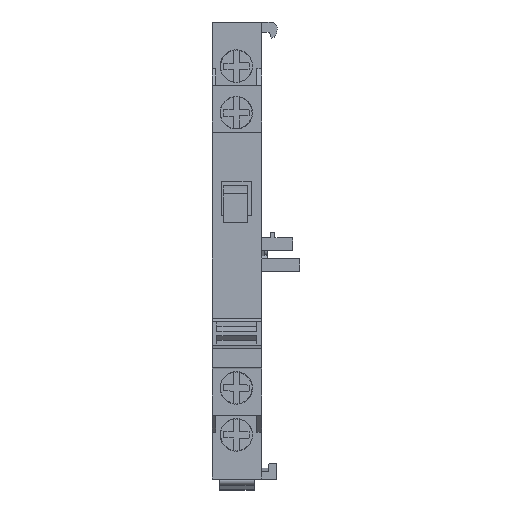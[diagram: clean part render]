
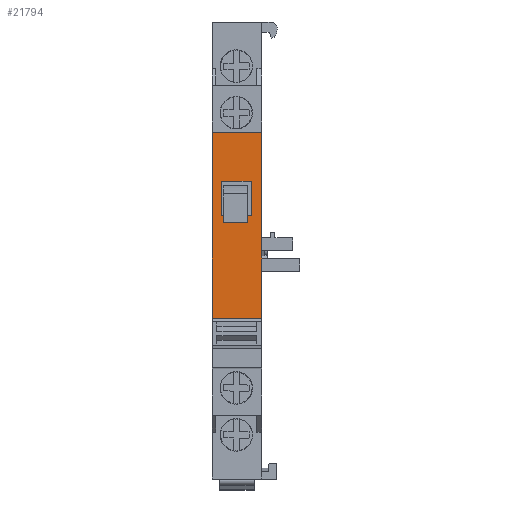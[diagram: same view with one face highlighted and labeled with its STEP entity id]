
A CAD part, top view. The second image highlights one B-rep face of the part: STEP entity #21794.
In plain terms, the highlighted planar face has unit normal (0, 0, 1).
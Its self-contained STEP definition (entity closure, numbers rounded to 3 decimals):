
#696 = PLANE('',#697);
#697 = AXIS2_PLACEMENT_3D('',#698,#699,#700);
#698 = CARTESIAN_POINT('',(9.408,0.,
    0.009));
#699 = DIRECTION('',(1.,0.,0.));
#700 = DIRECTION('',(0.,1.,0.));
#750 = PLANE('',#751);
#751 = AXIS2_PLACEMENT_3D('',#752,#753,#754);
#752 = CARTESIAN_POINT('',(0.009,89.05,
    0.009));
#753 = DIRECTION('',(-1.,0.,0.));
#754 = DIRECTION('',(0.,-1.,0.));
#3478 = VERTEX_POINT('',#3479);
#3479 = CARTESIAN_POINT('',(9.408,32.601,65.509
    ));
#3493 = PLANE('',#3494);
#3494 = AXIS2_PLACEMENT_3D('',#3495,#3496,#3497);
#3495 = CARTESIAN_POINT('',(0.009,32.601,
    65.509));
#3496 = DIRECTION('',(0.,-0.242,-0.97));
#3497 = DIRECTION('',(0.,-0.97,0.242));
#3505 = EDGE_CURVE('',#3506,#3478,#3508,.T.);
#3506 = VERTEX_POINT('',#3507);
#3507 = CARTESIAN_POINT('',(9.408,67.956,65.509
    ));
#3508 = SURFACE_CURVE('',#3509,(#3513,#3520),.PCURVE_S1.);
#3509 = LINE('',#3510,#3511);
#3510 = CARTESIAN_POINT('',(9.408,67.956,65.509
    ));
#3511 = VECTOR('',#3512,1.);
#3512 = DIRECTION('',(0.,-1.,0.));
#3513 = PCURVE('',#696,#3514);
#3514 = DEFINITIONAL_REPRESENTATION('',(#3515),#3519);
#3515 = LINE('',#3516,#3517);
#3516 = CARTESIAN_POINT('',(67.956,65.5));
#3517 = VECTOR('',#3518,1.);
#3518 = DIRECTION('',(-1.,0.));
#3519 = ( GEOMETRIC_REPRESENTATION_CONTEXT(2) 
PARAMETRIC_REPRESENTATION_CONTEXT() REPRESENTATION_CONTEXT('2D SPACE',''
  ) );
#3520 = PCURVE('',#3521,#3526);
#3521 = PLANE('',#3522);
#3522 = AXIS2_PLACEMENT_3D('',#3523,#3524,#3525);
#3523 = CARTESIAN_POINT('',(0.009,67.956,
    65.509));
#3524 = DIRECTION('',(0.,0.,-1.));
#3525 = DIRECTION('',(0.,-1.,0.));
#3526 = DEFINITIONAL_REPRESENTATION('',(#3527),#3531);
#3527 = LINE('',#3528,#3529);
#3528 = CARTESIAN_POINT('',(0.,-9.399));
#3529 = VECTOR('',#3530,1.);
#3530 = DIRECTION('',(1.,0.));
#3531 = ( GEOMETRIC_REPRESENTATION_CONTEXT(2) 
PARAMETRIC_REPRESENTATION_CONTEXT() REPRESENTATION_CONTEXT('2D SPACE',''
  ) );
#3549 = PLANE('',#3550);
#3550 = AXIS2_PLACEMENT_3D('',#3551,#3552,#3553);
#3551 = CARTESIAN_POINT('',(0.009,68.049,
    49.528));
#3552 = DIRECTION('',(0.,-1.,-0.006));
#3553 = DIRECTION('',(0.,-0.006,1.));
#11305 = VERTEX_POINT('',#11306);
#11306 = CARTESIAN_POINT('',(0.009,67.956,
    65.509));
#11327 = EDGE_CURVE('',#11305,#11328,#11330,.T.);
#11328 = VERTEX_POINT('',#11329);
#11329 = CARTESIAN_POINT('',(0.009,32.601,
    65.509));
#11330 = SURFACE_CURVE('',#11331,(#11335,#11342),.PCURVE_S1.);
#11331 = LINE('',#11332,#11333);
#11332 = CARTESIAN_POINT('',(0.009,67.956,
    65.509));
#11333 = VECTOR('',#11334,1.);
#11334 = DIRECTION('',(0.,-1.,0.));
#11335 = PCURVE('',#750,#11336);
#11336 = DEFINITIONAL_REPRESENTATION('',(#11337),#11341);
#11337 = LINE('',#11338,#11339);
#11338 = CARTESIAN_POINT('',(21.094,65.5));
#11339 = VECTOR('',#11340,1.);
#11340 = DIRECTION('',(1.,0.));
#11341 = ( GEOMETRIC_REPRESENTATION_CONTEXT(2) 
PARAMETRIC_REPRESENTATION_CONTEXT() REPRESENTATION_CONTEXT('2D SPACE',''
  ) );
#11342 = PCURVE('',#3521,#11343);
#11343 = DEFINITIONAL_REPRESENTATION('',(#11344),#11348);
#11344 = LINE('',#11345,#11346);
#11345 = CARTESIAN_POINT('',(0.,-0.));
#11346 = VECTOR('',#11347,1.);
#11347 = DIRECTION('',(1.,0.));
#11348 = ( GEOMETRIC_REPRESENTATION_CONTEXT(2) 
PARAMETRIC_REPRESENTATION_CONTEXT() REPRESENTATION_CONTEXT('2D SPACE',''
  ) );
#21772 = EDGE_CURVE('',#11305,#3506,#21773,.T.);
#21773 = SURFACE_CURVE('',#21774,(#21778,#21785),.PCURVE_S1.);
#21774 = LINE('',#21775,#21776);
#21775 = CARTESIAN_POINT('',(0.009,67.956,
    65.509));
#21776 = VECTOR('',#21777,1.);
#21777 = DIRECTION('',(1.,0.,0.));
#21778 = PCURVE('',#3549,#21779);
#21779 = DEFINITIONAL_REPRESENTATION('',(#21780),#21784);
#21780 = LINE('',#21781,#21782);
#21781 = CARTESIAN_POINT('',(15.981,0.));
#21782 = VECTOR('',#21783,1.);
#21783 = DIRECTION('',(0.,-1.));
#21784 = ( GEOMETRIC_REPRESENTATION_CONTEXT(2) 
PARAMETRIC_REPRESENTATION_CONTEXT() REPRESENTATION_CONTEXT('2D SPACE',''
  ) );
#21785 = PCURVE('',#3521,#21786);
#21786 = DEFINITIONAL_REPRESENTATION('',(#21787),#21791);
#21787 = LINE('',#21788,#21789);
#21788 = CARTESIAN_POINT('',(0.,-0.));
#21789 = VECTOR('',#21790,1.);
#21790 = DIRECTION('',(0.,-1.));
#21791 = ( GEOMETRIC_REPRESENTATION_CONTEXT(2) 
PARAMETRIC_REPRESENTATION_CONTEXT() REPRESENTATION_CONTEXT('2D SPACE',''
  ) );
#21794 = ADVANCED_FACE('',(#21795,#21821),#3521,.F.);
#21795 = FACE_BOUND('',#21796,.F.);
#21796 = EDGE_LOOP('',(#21797,#21798,#21819,#21820));
#21797 = ORIENTED_EDGE('',*,*,#3505,.T.);
#21798 = ORIENTED_EDGE('',*,*,#21799,.F.);
#21799 = EDGE_CURVE('',#11328,#3478,#21800,.T.);
#21800 = SURFACE_CURVE('',#21801,(#21805,#21812),.PCURVE_S1.);
#21801 = LINE('',#21802,#21803);
#21802 = CARTESIAN_POINT('',(0.009,32.601,
    65.509));
#21803 = VECTOR('',#21804,1.);
#21804 = DIRECTION('',(1.,0.,0.));
#21805 = PCURVE('',#3521,#21806);
#21806 = DEFINITIONAL_REPRESENTATION('',(#21807),#21811);
#21807 = LINE('',#21808,#21809);
#21808 = CARTESIAN_POINT('',(35.354,0.));
#21809 = VECTOR('',#21810,1.);
#21810 = DIRECTION('',(0.,-1.));
#21811 = ( GEOMETRIC_REPRESENTATION_CONTEXT(2) 
PARAMETRIC_REPRESENTATION_CONTEXT() REPRESENTATION_CONTEXT('2D SPACE',''
  ) );
#21812 = PCURVE('',#3493,#21813);
#21813 = DEFINITIONAL_REPRESENTATION('',(#21814),#21818);
#21814 = LINE('',#21815,#21816);
#21815 = CARTESIAN_POINT('',(0.,0.));
#21816 = VECTOR('',#21817,1.);
#21817 = DIRECTION('',(0.,-1.));
#21818 = ( GEOMETRIC_REPRESENTATION_CONTEXT(2) 
PARAMETRIC_REPRESENTATION_CONTEXT() REPRESENTATION_CONTEXT('2D SPACE',''
  ) );
#21819 = ORIENTED_EDGE('',*,*,#11327,.F.);
#21820 = ORIENTED_EDGE('',*,*,#21772,.T.);
#21821 = FACE_BOUND('',#21822,.F.);
#21822 = EDGE_LOOP('',(#21823,#21853,#21881,#21909));
#21823 = ORIENTED_EDGE('',*,*,#21824,.F.);
#21824 = EDGE_CURVE('',#21825,#21827,#21829,.T.);
#21825 = VERTEX_POINT('',#21826);
#21826 = CARTESIAN_POINT('',(1.755,52.116,
    65.509));
#21827 = VERTEX_POINT('',#21828);
#21828 = CARTESIAN_POINT('',(1.755,58.724,
    65.509));
#21829 = SURFACE_CURVE('',#21830,(#21834,#21841),.PCURVE_S1.);
#21830 = LINE('',#21831,#21832);
#21831 = CARTESIAN_POINT('',(1.755,52.116,
    65.509));
#21832 = VECTOR('',#21833,1.);
#21833 = DIRECTION('',(0.,1.,0.));
#21834 = PCURVE('',#3521,#21835);
#21835 = DEFINITIONAL_REPRESENTATION('',(#21836),#21840);
#21836 = LINE('',#21837,#21838);
#21837 = CARTESIAN_POINT('',(15.84,-1.746));
#21838 = VECTOR('',#21839,1.);
#21839 = DIRECTION('',(-1.,-0.));
#21840 = ( GEOMETRIC_REPRESENTATION_CONTEXT(2) 
PARAMETRIC_REPRESENTATION_CONTEXT() REPRESENTATION_CONTEXT('2D SPACE',''
  ) );
#21841 = PCURVE('',#21842,#21847);
#21842 = PLANE('',#21843);
#21843 = AXIS2_PLACEMENT_3D('',#21844,#21845,#21846);
#21844 = CARTESIAN_POINT('',(1.755,58.724,
    65.509));
#21845 = DIRECTION('',(-1.,0.,0.));
#21846 = DIRECTION('',(0.,-1.,0.));
#21847 = DEFINITIONAL_REPRESENTATION('',(#21848),#21852);
#21848 = LINE('',#21849,#21850);
#21849 = CARTESIAN_POINT('',(6.608,0.));
#21850 = VECTOR('',#21851,1.);
#21851 = DIRECTION('',(-1.,0.));
#21852 = ( GEOMETRIC_REPRESENTATION_CONTEXT(2) 
PARAMETRIC_REPRESENTATION_CONTEXT() REPRESENTATION_CONTEXT('2D SPACE',''
  ) );
#21853 = ORIENTED_EDGE('',*,*,#21854,.T.);
#21854 = EDGE_CURVE('',#21825,#21855,#21857,.T.);
#21855 = VERTEX_POINT('',#21856);
#21856 = CARTESIAN_POINT('',(7.463,52.116,
    65.509));
#21857 = SURFACE_CURVE('',#21858,(#21862,#21869),.PCURVE_S1.);
#21858 = LINE('',#21859,#21860);
#21859 = CARTESIAN_POINT('',(1.755,52.116,
    65.509));
#21860 = VECTOR('',#21861,1.);
#21861 = DIRECTION('',(1.,0.,0.));
#21862 = PCURVE('',#3521,#21863);
#21863 = DEFINITIONAL_REPRESENTATION('',(#21864),#21868);
#21864 = LINE('',#21865,#21866);
#21865 = CARTESIAN_POINT('',(15.84,-1.746));
#21866 = VECTOR('',#21867,1.);
#21867 = DIRECTION('',(0.,-1.));
#21868 = ( GEOMETRIC_REPRESENTATION_CONTEXT(2) 
PARAMETRIC_REPRESENTATION_CONTEXT() REPRESENTATION_CONTEXT('2D SPACE',''
  ) );
#21869 = PCURVE('',#21870,#21875);
#21870 = PLANE('',#21871);
#21871 = AXIS2_PLACEMENT_3D('',#21872,#21873,#21874);
#21872 = CARTESIAN_POINT('',(1.755,52.116,
    65.509));
#21873 = DIRECTION('',(0.,-1.,0.));
#21874 = DIRECTION('',(1.,0.,0.));
#21875 = DEFINITIONAL_REPRESENTATION('',(#21876),#21880);
#21876 = LINE('',#21877,#21878);
#21877 = CARTESIAN_POINT('',(0.,0.));
#21878 = VECTOR('',#21879,1.);
#21879 = DIRECTION('',(1.,0.));
#21880 = ( GEOMETRIC_REPRESENTATION_CONTEXT(2) 
PARAMETRIC_REPRESENTATION_CONTEXT() REPRESENTATION_CONTEXT('2D SPACE',''
  ) );
#21881 = ORIENTED_EDGE('',*,*,#21882,.T.);
#21882 = EDGE_CURVE('',#21855,#21883,#21885,.T.);
#21883 = VERTEX_POINT('',#21884);
#21884 = CARTESIAN_POINT('',(7.463,58.724,
    65.509));
#21885 = SURFACE_CURVE('',#21886,(#21890,#21897),.PCURVE_S1.);
#21886 = LINE('',#21887,#21888);
#21887 = CARTESIAN_POINT('',(7.463,52.116,
    65.509));
#21888 = VECTOR('',#21889,1.);
#21889 = DIRECTION('',(0.,1.,0.));
#21890 = PCURVE('',#3521,#21891);
#21891 = DEFINITIONAL_REPRESENTATION('',(#21892),#21896);
#21892 = LINE('',#21893,#21894);
#21893 = CARTESIAN_POINT('',(15.84,-7.454));
#21894 = VECTOR('',#21895,1.);
#21895 = DIRECTION('',(-1.,-0.));
#21896 = ( GEOMETRIC_REPRESENTATION_CONTEXT(2) 
PARAMETRIC_REPRESENTATION_CONTEXT() REPRESENTATION_CONTEXT('2D SPACE',''
  ) );
#21897 = PCURVE('',#21898,#21903);
#21898 = PLANE('',#21899);
#21899 = AXIS2_PLACEMENT_3D('',#21900,#21901,#21902);
#21900 = CARTESIAN_POINT('',(7.463,52.116,
    65.509));
#21901 = DIRECTION('',(1.,0.,0.));
#21902 = DIRECTION('',(0.,1.,0.));
#21903 = DEFINITIONAL_REPRESENTATION('',(#21904),#21908);
#21904 = LINE('',#21905,#21906);
#21905 = CARTESIAN_POINT('',(0.,0.));
#21906 = VECTOR('',#21907,1.);
#21907 = DIRECTION('',(1.,0.));
#21908 = ( GEOMETRIC_REPRESENTATION_CONTEXT(2) 
PARAMETRIC_REPRESENTATION_CONTEXT() REPRESENTATION_CONTEXT('2D SPACE',''
  ) );
#21909 = ORIENTED_EDGE('',*,*,#21910,.T.);
#21910 = EDGE_CURVE('',#21883,#21827,#21911,.T.);
#21911 = SURFACE_CURVE('',#21912,(#21916,#21923),.PCURVE_S1.);
#21912 = LINE('',#21913,#21914);
#21913 = CARTESIAN_POINT('',(7.463,58.724,
    65.509));
#21914 = VECTOR('',#21915,1.);
#21915 = DIRECTION('',(-1.,0.,0.));
#21916 = PCURVE('',#3521,#21917);
#21917 = DEFINITIONAL_REPRESENTATION('',(#21918),#21922);
#21918 = LINE('',#21919,#21920);
#21919 = CARTESIAN_POINT('',(9.232,-7.454));
#21920 = VECTOR('',#21921,1.);
#21921 = DIRECTION('',(0.,1.));
#21922 = ( GEOMETRIC_REPRESENTATION_CONTEXT(2) 
PARAMETRIC_REPRESENTATION_CONTEXT() REPRESENTATION_CONTEXT('2D SPACE',''
  ) );
#21923 = PCURVE('',#21924,#21929);
#21924 = PLANE('',#21925);
#21925 = AXIS2_PLACEMENT_3D('',#21926,#21927,#21928);
#21926 = CARTESIAN_POINT('',(7.463,58.724,
    65.509));
#21927 = DIRECTION('',(0.,1.,0.));
#21928 = DIRECTION('',(-1.,0.,0.));
#21929 = DEFINITIONAL_REPRESENTATION('',(#21930),#21934);
#21930 = LINE('',#21931,#21932);
#21931 = CARTESIAN_POINT('',(0.,0.));
#21932 = VECTOR('',#21933,1.);
#21933 = DIRECTION('',(1.,0.));
#21934 = ( GEOMETRIC_REPRESENTATION_CONTEXT(2) 
PARAMETRIC_REPRESENTATION_CONTEXT() REPRESENTATION_CONTEXT('2D SPACE',''
  ) );
